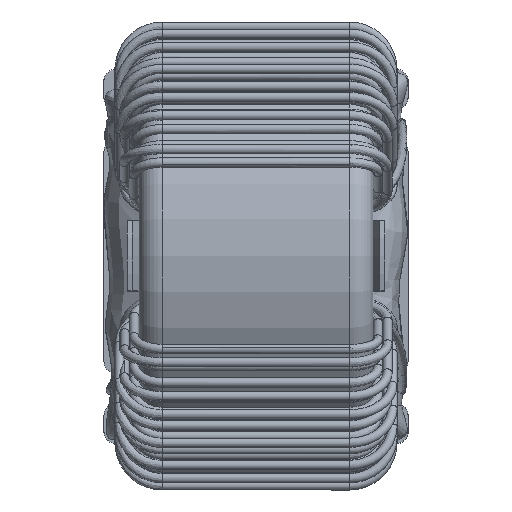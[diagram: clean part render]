
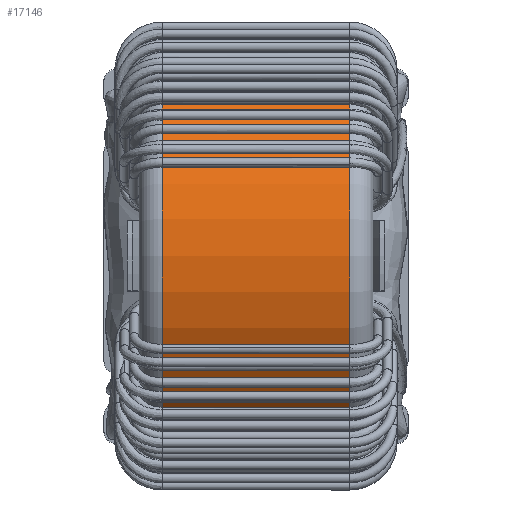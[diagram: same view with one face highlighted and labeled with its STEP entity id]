
A CAD part, top view. The second image highlights one B-rep face of the part: STEP entity #17146.
In plain terms, the highlighted cylindrical face has radius 9 mm (diameter 18 mm), a full revolution.
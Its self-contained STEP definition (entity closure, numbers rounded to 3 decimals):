
#679=CYLINDRICAL_SURFACE('',#18687,9.);
#2047=CIRCLE('',#18674,9.);
#2050=CIRCLE('',#18678,9.);
#4558=ORIENTED_EDGE('',*,*,#6359,.F.);
#4559=ORIENTED_EDGE('',*,*,#6356,.T.);
#6356=EDGE_CURVE('',#7711,#7711,#2047,.T.);
#6359=EDGE_CURVE('',#7714,#7714,#2050,.T.);
#7711=VERTEX_POINT('',#67201);
#7714=VERTEX_POINT('',#67208);
#10094=EDGE_LOOP('',(#4558));
#10095=EDGE_LOOP('',(#4559));
#12035=FACE_BOUND('',#10094,.T.);
#12036=FACE_BOUND('',#10095,.T.);
#17146=ADVANCED_FACE('',(#12035,#12036),#679,.T.);
#18674=AXIS2_PLACEMENT_3D('',#67200,#21683,#21684);
#18678=AXIS2_PLACEMENT_3D('',#67207,#21691,#21692);
#18687=AXIS2_PLACEMENT_3D('',#67221,#21709,#21710);
#21683=DIRECTION('',(0.,1.,0.));
#21684=DIRECTION('',(0.,0.,1.));
#21691=DIRECTION('',(0.,1.,0.));
#21692=DIRECTION('',(0.,0.,1.));
#21709=DIRECTION('',(0.,1.,0.));
#21710=DIRECTION('',(0.,0.,1.));
#67200=CARTESIAN_POINT('',(0.,-4.,9.1));
#67201=CARTESIAN_POINT('',(0.,-4.,18.1));
#67207=CARTESIAN_POINT('',(0.,4.,9.1));
#67208=CARTESIAN_POINT('',(0.,4.,18.1));
#67221=CARTESIAN_POINT('',(0.,-5.,9.1));
